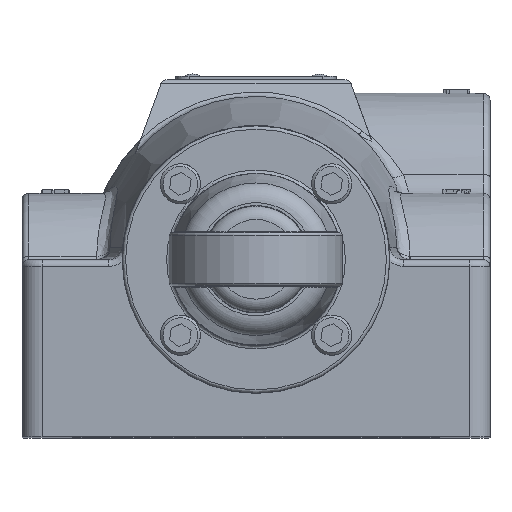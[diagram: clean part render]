
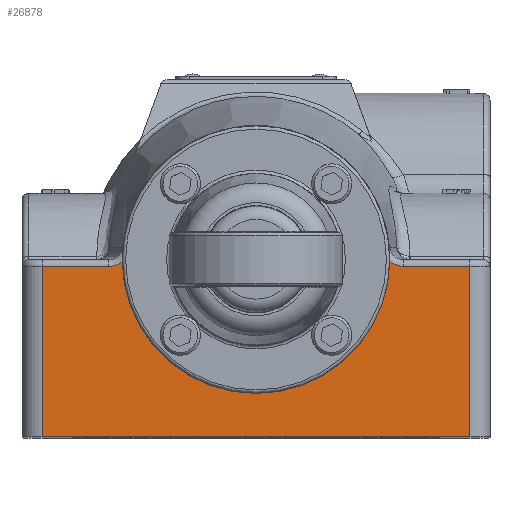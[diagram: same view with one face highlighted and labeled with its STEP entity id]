
A CAD part, top view. The second image highlights one B-rep face of the part: STEP entity #26878.
In plain terms, the highlighted planar face has unit normal (0, 0, 1).
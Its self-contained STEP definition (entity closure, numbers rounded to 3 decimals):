
#805=B_SPLINE_CURVE_WITH_KNOTS('',3,(#46421,#46422,#46423,#46424),
 .UNSPECIFIED.,.F.,.F.,(4,4),(0.356,0.703),
 .UNSPECIFIED.);
#806=B_SPLINE_CURVE_WITH_KNOTS('',3,(#46428,#46429,#46430,#46431,#46432),
 .UNSPECIFIED.,.F.,.F.,(4,1,4),(0.,0.291,0.347),
 .UNSPECIFIED.);
#2196=LINE('',#46415,#3492);
#2197=LINE('',#46417,#3493);
#2198=LINE('',#46419,#3494);
#2199=LINE('',#46434,#3495);
#2200=LINE('',#46435,#3496);
#3492=VECTOR('',#34856,10.16);
#3493=VECTOR('',#34857,4.047);
#3494=VECTOR('',#34858,1.583);
#3495=VECTOR('',#34861,1.583);
#3496=VECTOR('',#34862,4.047);
#6157=PLANE('',#29390);
#8039=FACE_OUTER_BOUND('',#9968,.T.);
#9968=EDGE_LOOP('',(#22578,#22579,#22580,#22581,#22582,#22583,#22584,#22585));
#11645=CIRCLE('',#29391,3.178);
#13626=VERTEX_POINT('',#46413);
#13627=VERTEX_POINT('',#46414);
#13628=VERTEX_POINT('',#46416);
#13629=VERTEX_POINT('',#46418);
#13630=VERTEX_POINT('',#46420);
#13631=VERTEX_POINT('',#46425);
#13632=VERTEX_POINT('',#46427);
#13633=VERTEX_POINT('',#46433);
#16738=EDGE_CURVE('',#13626,#13627,#2196,.T.);
#16739=EDGE_CURVE('',#13628,#13626,#2197,.T.);
#16740=EDGE_CURVE('',#13629,#13628,#2198,.T.);
#16741=EDGE_CURVE('',#13630,#13629,#805,.T.);
#16742=EDGE_CURVE('',#13631,#13630,#11645,.T.);
#16743=EDGE_CURVE('',#13632,#13631,#806,.T.);
#16744=EDGE_CURVE('',#13633,#13632,#2199,.T.);
#16745=EDGE_CURVE('',#13627,#13633,#2200,.T.);
#22578=ORIENTED_EDGE('',*,*,#16738,.F.);
#22579=ORIENTED_EDGE('',*,*,#16739,.F.);
#22580=ORIENTED_EDGE('',*,*,#16740,.F.);
#22581=ORIENTED_EDGE('',*,*,#16741,.F.);
#22582=ORIENTED_EDGE('',*,*,#16742,.F.);
#22583=ORIENTED_EDGE('',*,*,#16743,.F.);
#22584=ORIENTED_EDGE('',*,*,#16744,.F.);
#22585=ORIENTED_EDGE('',*,*,#16745,.F.);
#26878=ADVANCED_FACE('',(#8039),#6157,.T.);
#29390=AXIS2_PLACEMENT_3D('',#46412,#34854,#34855);
#29391=AXIS2_PLACEMENT_3D('',#46426,#34859,#34860);
#34854=DIRECTION('center_axis',(0.,0.,1.));
#34855=DIRECTION('ref_axis',(1.,0.,0.));
#34856=DIRECTION('',(-1.,0.,0.));
#34857=DIRECTION('',(0.,-1.,0.));
#34858=DIRECTION('',(1.,0.,0.));
#34859=DIRECTION('center_axis',(0.,0.,1.));
#34860=DIRECTION('ref_axis',(-1.,0.,0.));
#34861=DIRECTION('',(1.,0.,0.));
#34862=DIRECTION('',(0.,1.,0.));
#46412=CARTESIAN_POINT('Origin',(0.,-4.286,8.652));
#46413=CARTESIAN_POINT('',(5.08,-4.206,8.652));
#46414=CARTESIAN_POINT('',(-5.08,-4.206,8.652));
#46415=CARTESIAN_POINT('',(0.,-4.206,8.652));
#46416=CARTESIAN_POINT('',(5.08,-0.159,8.652));
#46417=CARTESIAN_POINT('',(5.08,-3.215,8.652));
#46418=CARTESIAN_POINT('',(3.497,-0.159,8.652));
#46419=CARTESIAN_POINT('',(0.,-0.159,8.652));
#46420=CARTESIAN_POINT('',(3.177,-0.037,8.652));
#46421=CARTESIAN_POINT('Ctrl Pts',(3.178,-0.037,
8.652));
#46422=CARTESIAN_POINT('Ctrl Pts',(3.265,-0.114,
8.652));
#46423=CARTESIAN_POINT('Ctrl Pts',(3.381,-0.159,
8.652));
#46424=CARTESIAN_POINT('Ctrl Pts',(3.497,-0.159,
8.652));
#46425=CARTESIAN_POINT('',(-3.177,-0.037,8.652));
#46426=CARTESIAN_POINT('Origin',(0.,0.,8.652));
#46427=CARTESIAN_POINT('',(-3.497,-0.159,8.652));
#46428=CARTESIAN_POINT('Ctrl Pts',(-3.497,-0.159,
8.652));
#46429=CARTESIAN_POINT('Ctrl Pts',(-3.4,-0.159,
8.652));
#46430=CARTESIAN_POINT('Ctrl Pts',(-3.283,-0.122,
8.652));
#46431=CARTESIAN_POINT('Ctrl Pts',(-3.192,-0.05,
8.652));
#46432=CARTESIAN_POINT('Ctrl Pts',(-3.178,-0.037,
8.652));
#46433=CARTESIAN_POINT('',(-5.08,-0.159,8.652));
#46434=CARTESIAN_POINT('',(0.,-0.159,8.652));
#46435=CARTESIAN_POINT('',(-5.08,-3.215,8.652));
